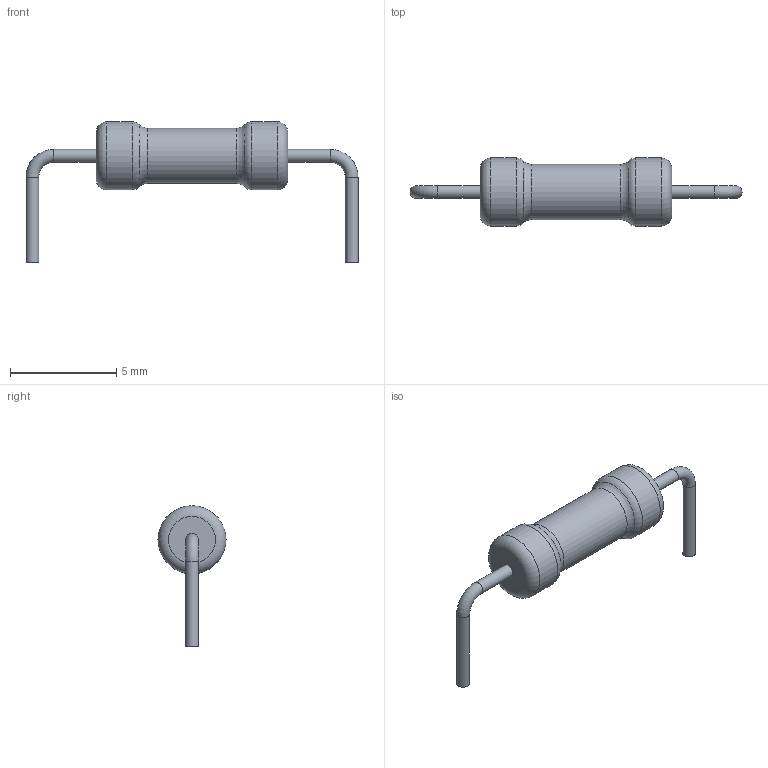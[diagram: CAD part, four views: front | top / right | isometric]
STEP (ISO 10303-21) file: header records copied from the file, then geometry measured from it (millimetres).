
FILE_DESCRIPTION(('STEP AP203'), '1');
FILE_NAME('R1-72-0.5(1)', '', ('UNSPECIFIED'), ('UNSPECIFIED'), 'ASCON STEP Converter 1.6', 'ASCON Math Kernel', '');
FILE_SCHEMA(('CONFIG_CONTROL_DESIGN'));
Length unit declared in the file: millimetre
Bounding box: 15.6 x 3.2 x 6.6 mm (x, y, z)
Volume: 62.2 mm3; surface area: 122.8 mm2
Topology: 1 solids, 1 shells, 19 faces, 33 edges, 18 vertices
Faces by surface type: torus 8, cylinder 7, plane 4
Full cylindrical faces by diameter (mm): 0.6 x4, 2.6 x1, 3.2 x2
Entity records: 570 total; most frequent: DIRECTION 76, CARTESIAN_POINT 56, AXIS2_PLACEMENT_3D 38, EDGE_LOOP 36, ORIENTED_EDGE 36, FACE_OUTER_BOUND 30, COLOUR_RGB 20, FILL_AREA_STYLE_COLOUR 20
